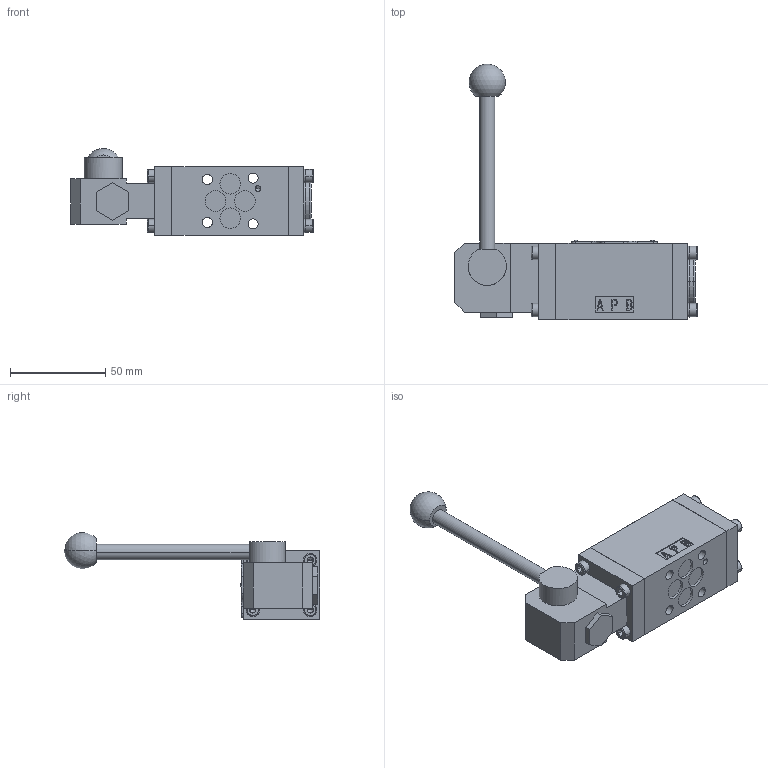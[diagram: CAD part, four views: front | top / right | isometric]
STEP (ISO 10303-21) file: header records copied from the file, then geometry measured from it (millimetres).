
FILE_DESCRIPTION((''),'2;1');
FILE_NAME('RPR3_04','2011-03-14T',('tvatras'),(''),'PRO/ENGINEER BY PARAMETRIC TECHNOLOGY CORPORATION, 2010180','PRO/ENGINEER BY PARAMETRIC TECHNOLOGY CORPORATION, 2010180','');
FILE_SCHEMA(('CONFIG_CONTROL_DESIGN'));
Length unit declared in the file: millimetre
Products named in the file (1): RPR3_04
Bounding box: 127 x 133.8 x 45.4 mm (x, y, z)
Volume: 156394.4 mm3; surface area: 28951 mm2
Topology: 1 solids, 1 shells, 538 faces, 1379 edges, 879 vertices
Faces by surface type: plane 407, cylinder 87, torus 20, cone 18, sphere 6
Entity records: 16005 total; most frequent: CARTESIAN_POINT 2772, ORIENTED_EDGE 2708, DIRECTION 2706, EDGE_CURVE 1354, VECTOR 1084, LINE 1084, VERTEX_POINT 877, AXIS2_PLACEMENT_3D 811
